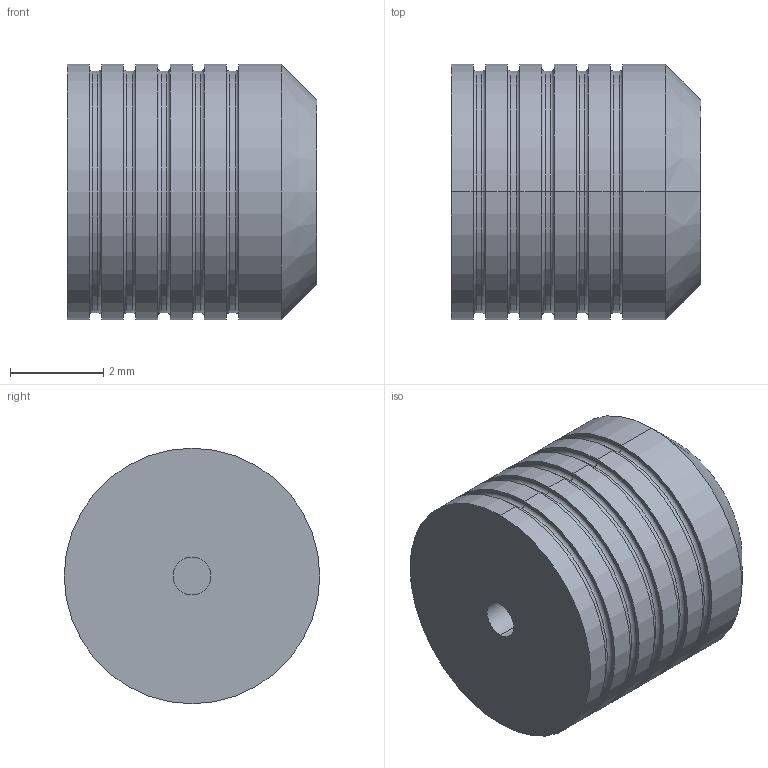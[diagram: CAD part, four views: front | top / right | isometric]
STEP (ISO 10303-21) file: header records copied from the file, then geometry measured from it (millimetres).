
FILE_DESCRIPTION (( 'STEP AP214' ), '1' );
FILE_NAME ('PLGM0550 _ _ 0A.STEP', '2020-02-19T18:01:25', ( 'tlc' ), ( 'Microsoft' ), 'SwSTEP 2.0', 'SolidWorks 2019', '' );
FILE_SCHEMA (( 'AUTOMOTIVE_DESIGN' ));
Length unit declared in the file: inch
Products named in the file (1): PLGM0550 _ _ 0A
Bounding box: 5.36 x 5.49 x 5.49 mm (x, y, z)
Volume: 116.9 mm3; surface area: 160.6 mm2
Topology: 1 solids, 1 shells, 59 faces, 116 edges, 70 vertices
Faces by surface type: cylinder 24, torus 20, plane 13, cone 2
Entity records: 1584 total; most frequent: DIRECTION 326, CARTESIAN_POINT 246, ORIENTED_EDGE 232, AXIS2_PLACEMENT_3D 150, EDGE_CURVE 116, CIRCLE 90, EDGE_LOOP 70, VERTEX_POINT 70
